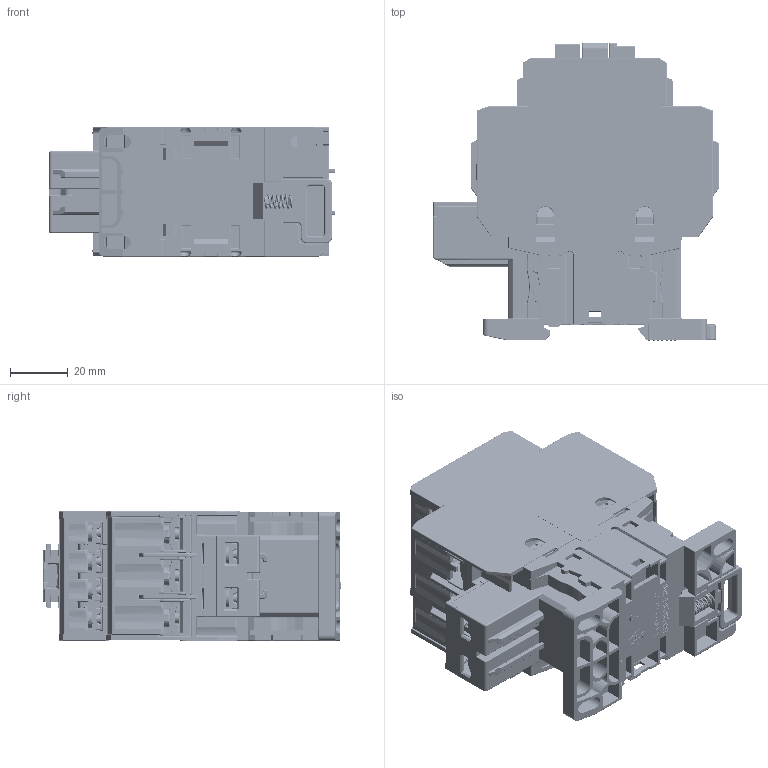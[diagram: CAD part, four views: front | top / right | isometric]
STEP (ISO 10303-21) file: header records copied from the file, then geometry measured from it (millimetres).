
FILE_DESCRIPTION((''),'2;1');
FILE_NAME('2-401-032_SW0002','2022-04-10T15:47:56',('chenmqing'),(''),'CREO PARAMETRIC BY PTC INC, 2020044','CREO PARAMETRIC BY PTC INC, 2020044','');
FILE_SCHEMA(('CONFIG_CONTROL_DESIGN','SHAPE_APPEARANCE_LAYERS_GROUPS'));
Products named in the file (1): 2-401-032_SW0002
Bounding box: 99.3 x 103.65 x 45.1 mm (x, y, z)
Volume: 208323.7 mm3; surface area: 123950.6 mm2
Topology: 1 solids, 1 shells, 15461 faces, 42296 edges, 26162 vertices
Faces by surface type: plane 8245, cylinder 4782, torus 1128, sphere 694, bspline 496, cone 108, extrusion 8
Entity records: 679098 total; most frequent: CARTESIAN_POINT 152923, ORIENTED_EDGE 84524, DIRECTION 77705, EDGE_CURVE 42262, VECTOR 28653, LINE 28645, VERTEX_POINT 26162, AXIS2_PLACEMENT_3D 24526
